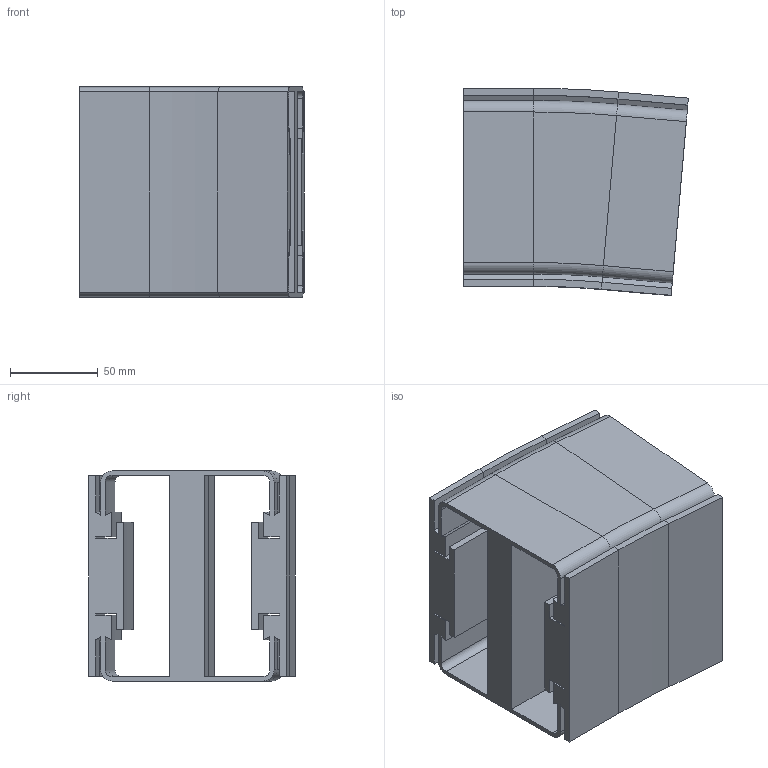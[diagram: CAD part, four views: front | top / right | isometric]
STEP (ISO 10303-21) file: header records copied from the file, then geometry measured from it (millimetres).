
FILE_DESCRIPTION (( 'STEP AP214' ), '1' );
FILE_NAME ('VC.120 Verticale bochtsectie.R500 5.STEP', '2017-02-08T08:10:05', ( '' ), ( '' ), 'SwSTEP 2.0', 'SolidWorks 2016', '' );
FILE_SCHEMA (( 'AUTOMOTIVE_DESIGN' ));
Length unit declared in the file: millimetre
Products named in the file (1): VC.120 Verticale bochtsectie.R500 5
Bounding box: 128.35 x 118.17 x 120 mm (x, y, z)
Volume: 728957.6 mm3; surface area: 188057 mm2
Topology: 1 solids, 1 shells, 206 faces, 476 edges, 272 vertices
Faces by surface type: plane 144, cylinder 46, cone 8, torus 8
Entity records: 5674 total; most frequent: DIRECTION 990, CARTESIAN_POINT 955, ORIENTED_EDGE 952, EDGE_CURVE 476, LINE 376, VECTOR 376, AXIS2_PLACEMENT_3D 307, VERTEX_POINT 272
